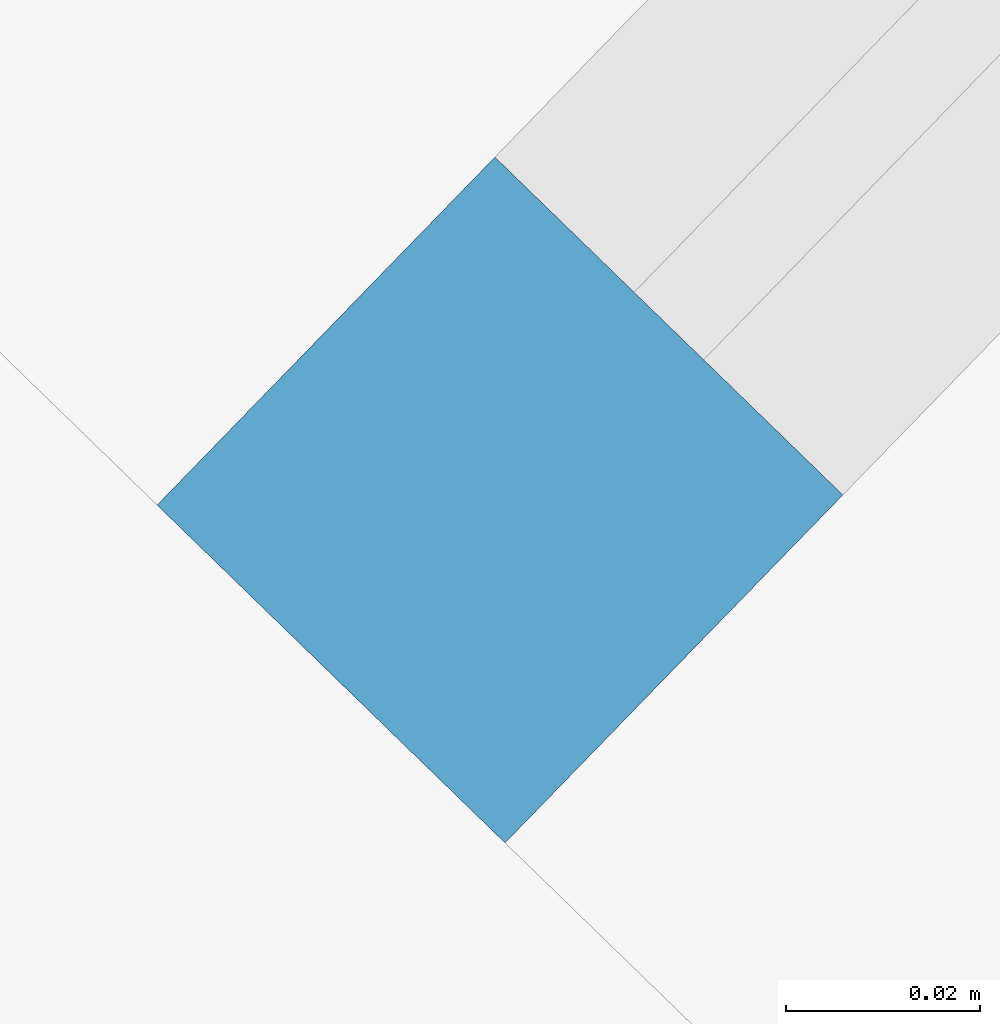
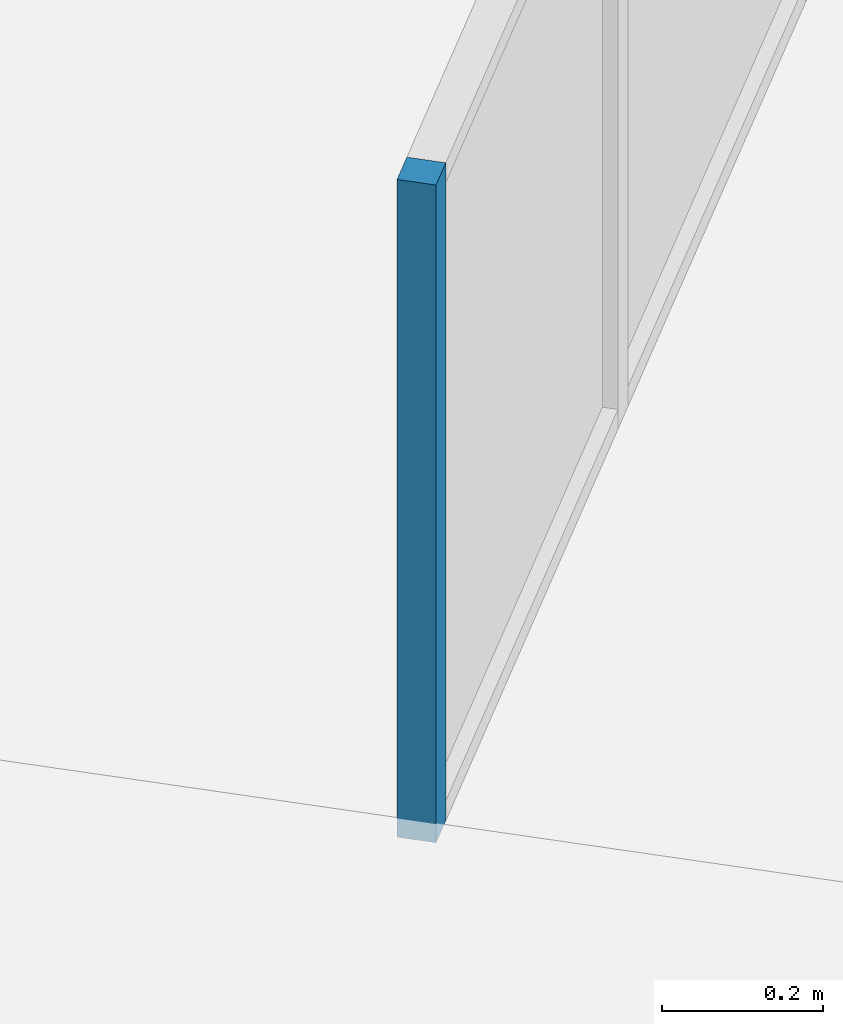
# One storey, part 4 of 37: 1 member, 1 element without a shape of its own.
"""IFC2X3 building model written with IfcOpenShell, lengths in centimetres."""

from ifc_helpers import new_model, entity, si_unit, converted_unit, derived_unit, direction, frame, frame_2d, origin, place, context, subcontext, project, spatial, rectangle, extrude, material, type_object, element, aggregate, save


model = new_model("IFC2X3")

# Units and contexts
model_context = context("Model", 3, precision=0.001, world=origin(), true_north=direction((0.717475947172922, 0.696583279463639)))
body_context = subcontext(model_context, "Body", "Model", "MODEL_VIEW")
ifc_project = project(units=[si_unit("LENGTHUNIT", "METRE", prefix="CENTI"), si_unit("AREAUNIT", "SQUARE_METRE"), si_unit("VOLUMEUNIT", "CUBIC_METRE"), converted_unit("PLANEANGLEUNIT", "DEGREE", entity("IfcRatioMeasure", 0.0174532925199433), si_unit("PLANEANGLEUNIT", "RADIAN"), dimensions=[0, 0, 0, 0, 0, 0, 0]), si_unit("MASSUNIT", "GRAM", prefix="KILO"), derived_unit("MASSDENSITYUNIT", [(si_unit("MASSUNIT", "GRAM", prefix="KILO"), 1), (si_unit("LENGTHUNIT", "METRE"), -3)]), si_unit("TIMEUNIT", "SECOND"), si_unit("FREQUENCYUNIT", "HERTZ"), si_unit("THERMODYNAMICTEMPERATUREUNIT", "DEGREE_CELSIUS"), derived_unit("THERMALTRANSMITTANCEUNIT", [(si_unit("MASSUNIT", "GRAM", prefix="KILO"), 1), (si_unit("THERMODYNAMICTEMPERATUREUNIT", "KELVIN"), -1), (si_unit("TIMEUNIT", "SECOND"), -3)]), derived_unit("VOLUMETRICFLOWRATEUNIT", [(si_unit("LENGTHUNIT", "METRE"), 3), (si_unit("TIMEUNIT", "SECOND"), -1)]), si_unit("ELECTRICCURRENTUNIT", "AMPERE"), si_unit("ELECTRICVOLTAGEUNIT", "VOLT"), si_unit("POWERUNIT", "WATT"), si_unit("FORCEUNIT", "NEWTON", prefix="KILO"), si_unit("ILLUMINANCEUNIT", "LUX"), si_unit("LUMINOUSFLUXUNIT", "LUMEN"), si_unit("LUMINOUSINTENSITYUNIT", "CANDELA"), derived_unit("USERDEFINED", [(si_unit("MASSUNIT", "GRAM", prefix="KILO"), -1), (si_unit("LENGTHUNIT", "METRE"), -2), (si_unit("TIMEUNIT", "SECOND"), 3), (si_unit("LUMINOUSFLUXUNIT", "LUMEN"), 1)]), derived_unit("LINEARVELOCITYUNIT", [(si_unit("LENGTHUNIT", "METRE"), 1), (si_unit("TIMEUNIT", "SECOND"), -1)]), si_unit("PRESSUREUNIT", "PASCAL"), derived_unit("USERDEFINED", [(si_unit("LENGTHUNIT", "METRE"), -2), (si_unit("MASSUNIT", "GRAM", prefix="KILO"), 1), (si_unit("TIMEUNIT", "SECOND"), -2)])], contexts=[model_context])

# Site, building, storey
site_placement = place(None, frame((0.0, 0.0, 0.0), z_axis=(0.0, 0.0, 1.0), x_axis=(0.696583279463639, 0.717475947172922, 0.0)))
site = spatial("IfcSite", under=ifc_project, at=site_placement, Name="Surface", CompositionType="ELEMENT")
building_placement = place(site_placement, origin())
building = spatial("IfcBuilding", under=site, at=building_placement, CompositionType="ELEMENT")
storey_placement = place(building_placement, origin())
storey = spatial("IfcBuildingStorey", under=building, at=storey_placement, Name="Nivel 0.00", CompositionType="ELEMENT", Elevation=0.0)

# Curtain wall, member
curtain_wall_type = type_object("IfcCurtainWallType", Name="Curtain Wall:REJA_BAJA_100mm", PredefinedType="NOTDEFINED")
curtain_wall_placement = place(storey_placement, origin())
curtain_wall = element("IfcCurtainWall", 1, at=curtain_wall_placement, inside=storey, type_object=curtain_wall_type, Name="Curtain Wall:REJA_BAJA_100mm", ObjectType="Curtain Wall:REJA_BAJA_100mm")
ifc_material = material(Name="Aluminum")
member_placement = place(curtain_wall_placement, origin())
member = element("IfcMember", 2, at=member_placement, material=ifc_material, Name="Curtain Wall:REJA_BAJA_100mm", ObjectType="Curtain Wall:REJA_BAJA_100mm", context=body_context, shape_type="SweptSolid", body=[
    extrude(rectangle(XDim=4.99999999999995, YDim=5.00000000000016, at=frame_2d((-1.08357767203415e-13, 0.0), x_axis=(1.0, 0.0))), frame((1535.05016389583, -1156.74407068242, 152.0), z_axis=(0.0, 0.0, 1.0), x_axis=(-1.0, 0.0, 0.0)), (0.0, 0.0, 1.0), 100.0),
])
aggregate(curtain_wall, [member])

save(model, "model.ifc")
